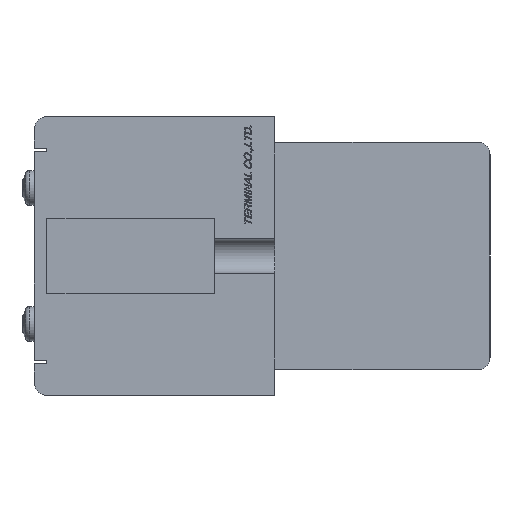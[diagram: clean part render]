
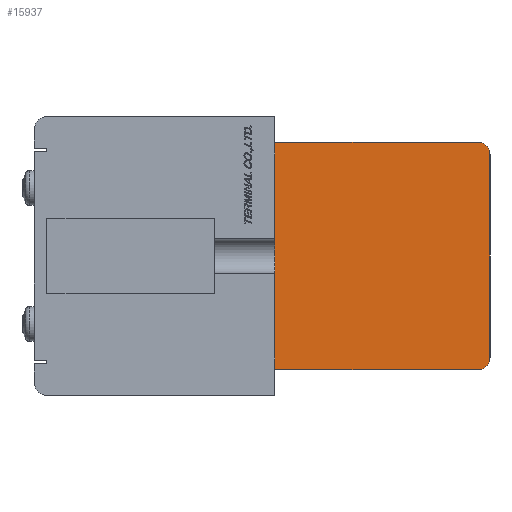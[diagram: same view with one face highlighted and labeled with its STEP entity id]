
A CAD part, left-side view. The second image highlights one B-rep face of the part: STEP entity #15937.
In plain terms, the highlighted planar face has unit normal (-1, 0, 0).
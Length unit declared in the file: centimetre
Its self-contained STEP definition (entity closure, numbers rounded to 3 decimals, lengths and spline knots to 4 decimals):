
#897=PLANE('',#17197);
#1405=CIRCLE('',#17192,0.2);
#1406=CIRCLE('',#17195,0.2);
#2985=VERTEX_POINT('',#25963);
#2986=VERTEX_POINT('',#25965);
#2993=VERTEX_POINT('',#25997);
#2994=VERTEX_POINT('',#26001);
#2995=VERTEX_POINT('',#26005);
#2996=VERTEX_POINT('',#26009);
#4506=VECTOR('',#20554,1.);
#4519=VECTOR('',#20582,1.);
#4522=VECTOR('',#20590,1.);
#4525=VECTOR('',#20598,1.);
#6016=LINE('',#25966,#4506);
#6029=LINE('',#25996,#4519);
#6032=LINE('',#26004,#4522);
#6035=LINE('',#26012,#4525);
#8290=EDGE_CURVE('',#2986,#2985,#6016,.T.);
#8305=EDGE_CURVE('',#2985,#2993,#6029,.T.);
#8307=EDGE_CURVE('',#2993,#2994,#1405,.T.);
#8309=EDGE_CURVE('',#2994,#2995,#6032,.T.);
#8311=EDGE_CURVE('',#2995,#2996,#1406,.T.);
#8313=EDGE_CURVE('',#2996,#2986,#6035,.T.);
#12865=ORIENTED_EDGE('',*,*,#8290,.F.);
#12866=ORIENTED_EDGE('',*,*,#8313,.F.);
#12867=ORIENTED_EDGE('',*,*,#8311,.F.);
#12868=ORIENTED_EDGE('',*,*,#8309,.F.);
#12869=ORIENTED_EDGE('',*,*,#8307,.F.);
#12870=ORIENTED_EDGE('',*,*,#8305,.F.);
#14027=EDGE_LOOP('',(#12865,#12866,#12867,#12868,#12869,#12870));
#15054=FACE_BOUND('',#14027,.T.);
#15937=ADVANCED_FACE('',(#15054),#897,.F.);
#17192=AXIS2_PLACEMENT_3D('',#26000,#20586,#20587);
#17195=AXIS2_PLACEMENT_3D('',#26008,#20594,#20595);
#17197=AXIS2_PLACEMENT_3D('',#26013,#20599,$);
#20554=DIRECTION('',(0.,0.,1.));
#20582=DIRECTION('',(0.,-1.,0.));
#20586=DIRECTION('',(1.,0.,0.));
#20587=DIRECTION('',(0.,0.,-0.2));
#20590=DIRECTION('',(0.,0.,-1.));
#20594=DIRECTION('',(1.,0.,0.));
#20595=DIRECTION('',(0.,0.,-0.2));
#20598=DIRECTION('',(0.,1.,0.));
#20599=DIRECTION('',(1.,0.,0.));
#25963=CARTESIAN_POINT('',(-0.4,0.,1.8));
#25965=CARTESIAN_POINT('',(-0.4,0.,-1.8));
#25966=CARTESIAN_POINT('',(-0.4,0.,1.8));
#25996=CARTESIAN_POINT('',(-0.4,-3.2,1.8));
#25997=CARTESIAN_POINT('',(-0.4,-3.2,1.8));
#26000=CARTESIAN_POINT('',(-0.4,-3.2,1.6));
#26001=CARTESIAN_POINT('',(-0.4,-3.4,1.6));
#26004=CARTESIAN_POINT('',(-0.4,-3.4,-1.6));
#26005=CARTESIAN_POINT('',(-0.4,-3.4,-1.6));
#26008=CARTESIAN_POINT('',(-0.4,-3.2,-1.6));
#26009=CARTESIAN_POINT('',(-0.4,-3.2,-1.8));
#26012=CARTESIAN_POINT('',(-0.4,0.,-1.8));
#26013=CARTESIAN_POINT('',(-0.4,-1.6784,0.));
